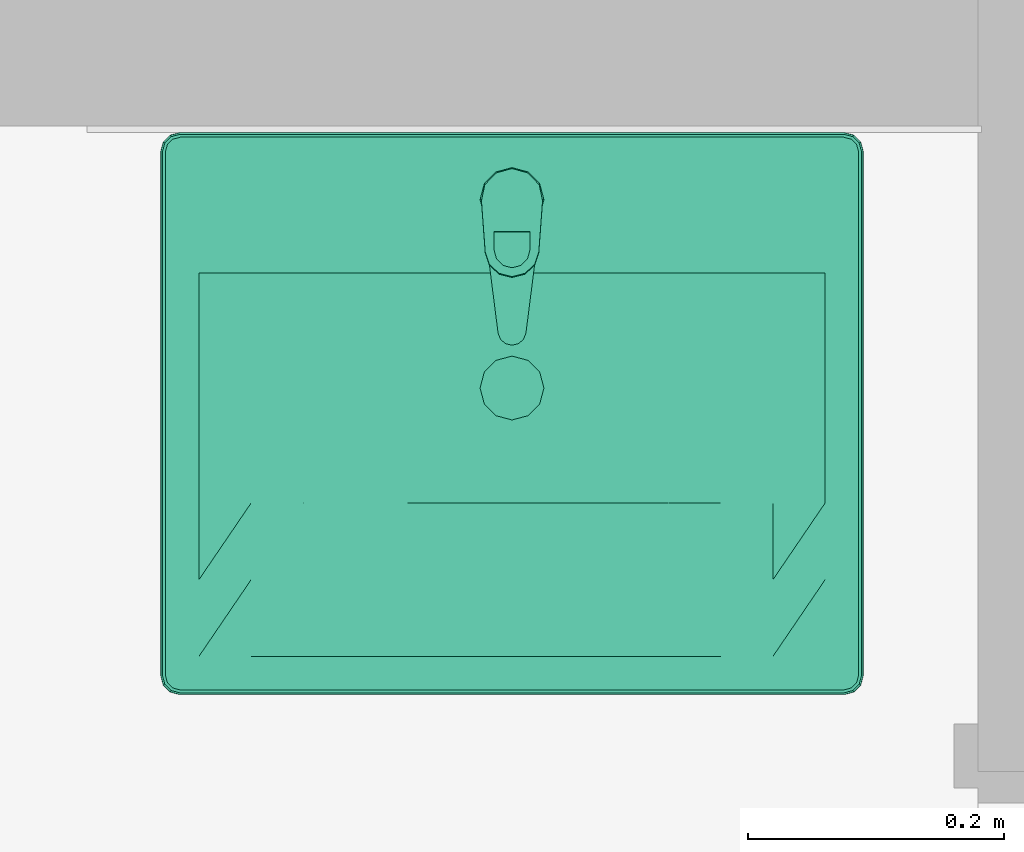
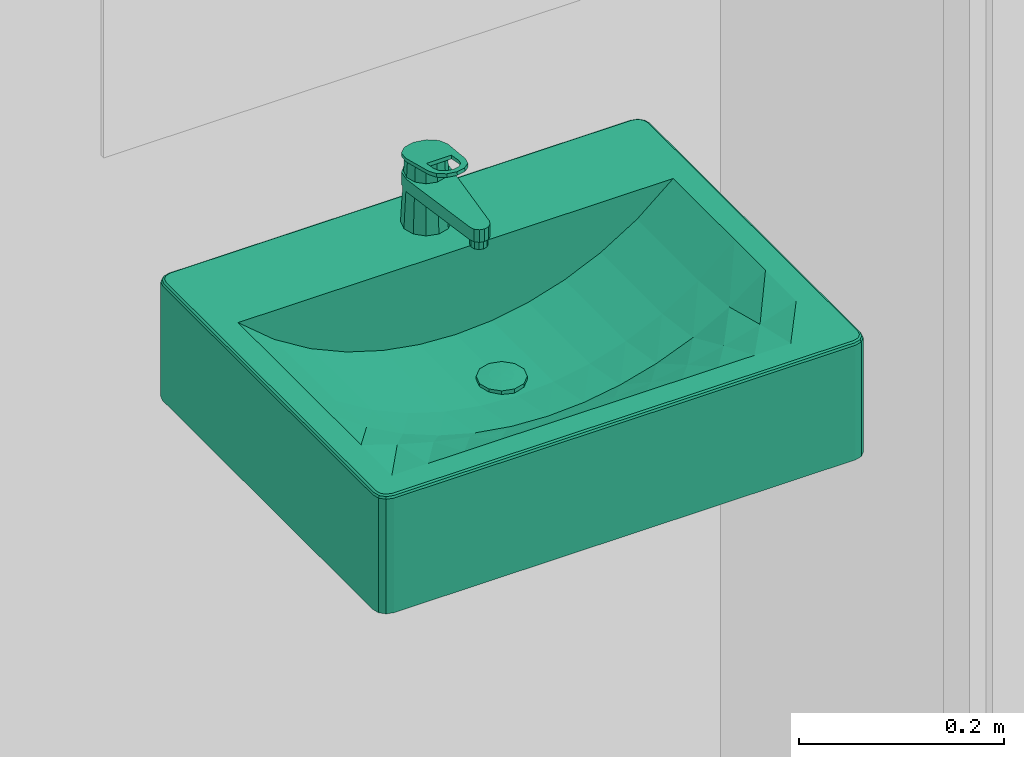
# One storey, part 117 of 194: 2 flow terminals.
"""IFC2X3 building model written with IfcOpenShell, lengths in millimetres."""

from ifc_helpers import new_model, entity, si_unit, converted_unit, derived_unit, money_unit, direction, frame, origin_with_axes, place, context, subcontext, project, spatial, open_shell, faceted_brep, surface_model, source, transform, mapped, type_object, element, save


model = new_model("IFC2X3")

# Units and contexts
model_context = context("Model", 3, precision=1e-05, world=origin_with_axes(), true_north=direction((0.0, 1.0)))
body_context = subcontext(model_context, "Body", "Model", "MODEL_VIEW")
ifc_project = project(units=[si_unit("LENGTHUNIT", "METRE", prefix="MILLI"), si_unit("AREAUNIT", "SQUARE_METRE"), si_unit("VOLUMEUNIT", "CUBIC_METRE"), converted_unit("PLANEANGLEUNIT", "DEGREE", entity("IfcPlaneAngleMeasure", 0.0174532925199), si_unit("PLANEANGLEUNIT", "RADIAN"), dimensions=[0, 0, 0, 0, 0, 0, 0]), si_unit("SOLIDANGLEUNIT", "STERADIAN"), money_unit("EUR"), converted_unit("TIMEUNIT", "Year", entity("IfcTimeMeasure", 31556926.0), si_unit("TIMEUNIT", "SECOND"), dimensions=[0, 0, 1, 0, 0, 0, 0]), si_unit("MASSUNIT", "GRAM", prefix="KILO"), si_unit("THERMODYNAMICTEMPERATUREUNIT", "DEGREE_CELSIUS"), si_unit("LUMINOUSINTENSITYUNIT", "LUMEN"), si_unit("ENERGYUNIT", "JOULE", prefix="MEGA"), derived_unit("THERMALCONDUCTANCEUNIT", [(si_unit("POWERUNIT", "WATT"), 1), (si_unit("LENGTHUNIT", "METRE"), -1), (si_unit("THERMODYNAMICTEMPERATUREUNIT", "KELVIN"), -1)]), derived_unit("SPECIFICHEATCAPACITYUNIT", [(si_unit("ENERGYUNIT", "JOULE"), 1), (si_unit("MASSUNIT", "GRAM", prefix="KILO"), -1), (si_unit("THERMODYNAMICTEMPERATUREUNIT", "KELVIN"), -1)]), derived_unit("MASSDENSITYUNIT", [(si_unit("MASSUNIT", "GRAM", prefix="KILO"), 1), (si_unit("VOLUMEUNIT", "CUBIC_METRE"), -1)])], contexts=[model_context])

# Site, building, storey
site_placement = place(None, origin_with_axes())
site = spatial("IfcSite", under=ifc_project, at=site_placement, Name="Site", CompositionType="ELEMENT")
building_placement = place(site_placement, origin_with_axes())
building = spatial("IfcBuilding", under=site, at=building_placement, Name="Building", CompositionType="ELEMENT")
storey_placement = place(building_placement, frame((0.0, 0.0, 3000.0), z_axis=(0.0, 0.0, 1.0), x_axis=(1.0, 0.0, 0.0)))
storey = spatial("IfcBuildingStorey", under=building, at=storey_placement, Name="2 KORRUS", CompositionType="ELEMENT", Elevation=3000.0)

# Flow terminals
sanitary_terminal_type_1 = type_object("IfcSanitaryTerminalType", Name="Basin 22", PredefinedType="NOTDEFINED")
shared_shape_1 = source(origin_with_axes(), body_context, "Body", "SurfaceModel", [
    faceted_brep([(260.0, -440.0, 860.0), (-260.0, -440.0, 860.0), (-267.5, -437.990381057, 860.0), (-272.990381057, -432.5, 860.0), (-275.0, -425.0, 860.0), (-275.0, -15.0, 860.0), (-272.990381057, -7.5, 860.0), (-267.5, -2.00961894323, 860.0), (-260.0, 0.0, 860.0), (260.0, 0.0, 860.0), (267.5, -2.00961894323, 860.0), (272.990381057, -7.5, 860.0), (275.0, -15.0, 860.0), (275.0, -425.0, 860.0), (272.990381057, -432.5, 860.0), (267.5, -437.990381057, 860.0), (-245.0, -410.0, 860.0), (245.0, -410.0, 860.0), (245.0, -110.0, 860.0), (-245.0, -110.0, 860.0), (259.999999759, -440.00000039, 995.0), (-259.999999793, -440.00000039, 995.0), (-267.500000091, -437.990381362, 995.0), (-272.990381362, -432.500000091, 995.0), (-275.00000039, -424.999999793, 995.0), (-275.00000039, -14.9999996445, 995.0), (-272.990381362, -7.50000027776, 995.0), (-267.500000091, -2.00961900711, 995.0), (-259.999999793, 2.02655670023e-08, 995.0), (259.999999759, 2.02655670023e-08, 995.0), (267.500000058, -2.00961900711, 995.0), (272.990381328, -7.50000027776, 995.0), (275.000000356, -14.9999996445, 995.0), (275.000000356, -424.999999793, 995.0), (272.990381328, -432.500000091, 995.0), (267.500000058, -437.990381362, 995.0), (-245.0, -410.0, 999.999999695), (245.0, -410.0, 999.999999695), (245.0, -110.0, 999.999999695), (-245.0, -110.0, 999.999999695), (259.977570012, -439.829629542, 996.294095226), (-259.977570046, -439.829629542, 996.294095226), (-267.411809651, -437.837631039, 996.294095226), (-272.837631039, -432.411809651, 996.294095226), (-274.829629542, -424.977570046, 996.294095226), (-274.829629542, -15.0224293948, 996.294095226), (-272.837631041, -7.58819072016, 996.294095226), (-267.411809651, -2.16236933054, 996.294095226), (-259.977570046, -0.170370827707, 996.294095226), (259.977570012, -0.170370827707, 996.294095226), (267.411809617, -2.16236933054, 996.294095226), (272.837631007, -7.58819072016, 996.294095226), (274.829629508, -15.0224293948, 996.294095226), (274.829629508, -424.977570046, 996.294095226), (272.837631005, -432.411809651, 996.294095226), (267.411809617, -437.837631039, 996.294095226), (-259.34173768, -4.99999712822, 999.999999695), (-264.911811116, -6.49249381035, 999.999999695), (-268.507506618, -10.0881893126, 999.999999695), (-270.000003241, -15.6582618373, 999.999999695), (-270.000003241, -424.34173768, 999.999999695), (-268.507506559, -429.911811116, 999.999999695), (-264.911811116, -433.507506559, 999.999999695), (-259.34173768, -435.000003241, 999.999999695), (259.341737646, -435.000003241, 999.999999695), (264.911811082, -433.507506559, 999.999999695), (268.507506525, -429.911811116, 999.999999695), (270.000003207, -424.34173768, 999.999999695), (270.000003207, -15.6582618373, 999.999999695), (268.507506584, -10.0881893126, 999.999999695), (264.911811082, -6.49249381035, 999.999999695), (259.341737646, -4.99999712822, 999.999999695), (259.807199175, -438.535534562, 998.535533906), (-259.807199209, -438.535534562, 998.535533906), (-266.741936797, -436.677377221, 998.535533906), (-271.677377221, -431.741936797, 998.535533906), (-273.535534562, -424.807199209, 998.535533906), (-273.535534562, -15.1928002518, 998.535533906), (-271.677377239, -8.2580635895, 998.535533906), (-266.741936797, -3.32262314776, 998.535533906), (-259.807199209, -1.46446580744, 998.535533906), (259.807199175, -1.46446580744, 998.535533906), (266.741936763, -3.32262314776, 998.535533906), (271.677377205, -8.2580635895, 998.535533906), (273.535534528, -15.1928002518, 998.535533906), (273.535534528, -424.807199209, 998.535533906), (271.677377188, -431.741936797, 998.535533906), (266.741936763, -436.677377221, 998.535533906), (-265.581682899, -5.33224184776, 999.829629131), (-259.512108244, -3.70590421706, 999.829629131), (-269.667758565, -9.41831751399, 999.829629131), (-271.294096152, -15.4878912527, 999.829629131), (-271.294096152, -424.512108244, 999.829629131), (-269.667758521, -430.581682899, 999.829629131), (-265.581682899, -434.667758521, 999.829629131), (-259.512108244, -436.294096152, 999.829629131), (259.51210821, -436.294096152, 999.829629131), (265.581682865, -434.667758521, 999.829629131), (269.667758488, -430.581682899, 999.829629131), (271.294096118, -424.512108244, 999.829629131), (271.294096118, -15.4878912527, 999.829629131), (269.667758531, -9.41831751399, 999.829629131), (265.581682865, -5.33224184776, 999.829629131), (259.51210821, -3.70590421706, 999.829629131)], [[[0, 1, 2, 3, 4, 5, 6, 7, 8, 9, 10, 11, 12, 13, 14, 15], [16, 17, 18, 19]], [[0, 20, 21, 1]], [[1, 21, 22, 2]], [[2, 22, 23, 3]], [[3, 23, 24, 4]], [[4, 24, 25, 5]], [[5, 25, 26, 6]], [[6, 26, 27, 7]], [[7, 27, 28, 8]], [[8, 28, 29, 9]], [[9, 29, 30, 10]], [[10, 30, 31, 11]], [[11, 31, 32, 12]], [[12, 32, 33, 13]], [[13, 33, 34, 14]], [[14, 34, 35, 15]], [[15, 35, 20, 0]], [[36, 37, 17, 16]], [[37, 38, 18, 17]], [[38, 39, 19, 18]], [[39, 36, 16, 19]], [[20, 40, 41, 21]], [[21, 41, 42, 22]], [[22, 42, 43, 23]], [[23, 43, 44, 24]], [[24, 44, 45, 25]], [[25, 45, 46, 26]], [[26, 46, 47, 27]], [[27, 47, 48, 28]], [[28, 48, 49, 29]], [[29, 49, 50, 30]], [[30, 50, 51, 31]], [[31, 51, 52, 32]], [[32, 52, 53, 33]], [[33, 53, 54, 34]], [[34, 54, 55, 35]], [[35, 55, 40, 20]], [[56, 57, 58, 59, 60, 61, 62, 63, 64, 65, 66, 67, 68, 69, 70, 71], [36, 39, 38, 37]], [[40, 72, 73, 41]], [[41, 73, 74, 42]], [[42, 74, 75, 43]], [[43, 75, 76, 44]], [[44, 76, 77, 45]], [[45, 77, 78, 46]], [[46, 78, 79, 47]], [[47, 79, 80, 48]], [[48, 80, 81, 49]], [[49, 81, 82, 50]], [[50, 82, 83, 51]], [[51, 83, 84, 52]], [[52, 84, 85, 53]], [[53, 85, 86, 54]], [[54, 86, 87, 55]], [[55, 87, 72, 40]], [[88, 57, 56, 89]], [[90, 58, 57, 88]], [[91, 59, 58, 90]], [[92, 60, 59, 91]], [[93, 61, 60, 92]], [[94, 62, 61, 93]], [[95, 63, 62, 94]], [[96, 64, 63, 95]], [[97, 65, 64, 96]], [[98, 66, 65, 97]], [[99, 67, 66, 98]], [[100, 68, 67, 99]], [[101, 69, 68, 100]], [[102, 70, 69, 101]], [[103, 71, 70, 102]], [[89, 56, 71, 103]], [[72, 96, 95, 73]], [[73, 95, 94, 74]], [[74, 94, 93, 75]], [[75, 93, 92, 76]], [[76, 92, 91, 77]], [[77, 91, 90, 78]], [[78, 90, 88, 79]], [[79, 88, 89, 80]], [[80, 89, 103, 81]], [[81, 103, 102, 82]], [[82, 102, 101, 83]], [[83, 101, 100, 84]], [[84, 100, 99, 85]], [[85, 99, 98, 86]], [[86, 98, 97, 87]], [[87, 97, 96, 72]]]),
    faceted_brep([(-245.0, -410.0, 860.0), (-245.0, -110.0, 860.0), (245.0, -110.0, 860.0), (245.0, -410.0, 860.0), (12.5, -221.641635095, 860.0), (21.6506350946, -212.491, 860.0), (25.0, -199.991, 860.0), (21.6506350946, -187.491, 860.0), (12.5, -178.340364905, 860.0), (0.0, -174.991, 860.0), (-12.5, -178.340364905, 860.0), (-21.6506350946, -187.491, 860.0), (-25.0, -199.991, 860.0), (-21.6506350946, -212.491, 860.0), (-12.5, -221.641635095, 860.0), (0.0, -224.991, 860.0), (-245.0, -290.0, 1000.0), (-245.0, -230.0, 1000.0), (-245.0, -170.0, 1000.0), (-245.0, -110.0, 1000.0), (-245.0, -410.0, 1000.0), (-245.0, -350.0, 1000.0), (122.5, -110.0, 922.129168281), (163.333333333, -110.0, 940.432026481), (204.166666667, -110.0, 965.689615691), (245.0, -110.0, 1000.0), (-204.166666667, -110.0, 965.689615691), (-163.333333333, -110.0, 940.432026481), (-122.5, -110.0, 922.129168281), (-81.6666666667, -110.0, 909.657569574), (-40.8333333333, -110.0, 902.389246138), (0.0, -110.0, 900.0), (40.8333333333, -110.0, 902.389246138), (81.6666666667, -110.0, 909.657569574), (245.0, -230.0, 1000.0), (245.0, -290.0, 1000.0), (245.0, -350.0, 1000.0), (245.0, -410.0, 1000.0), (245.0, -170.0, 1000.0), (-122.5, -410.0, 1000.0), (-163.333333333, -410.0, 1000.0), (-204.166666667, -410.0, 1000.0), (204.166666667, -410.0, 1000.0), (163.333333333, -410.0, 1000.0), (122.5, -410.0, 1000.0), (81.6666666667, -410.0, 1000.0), (40.8333333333, -410.0, 1000.0), (0.0, -410.0, 1000.0), (-40.8333333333, -410.0, 1000.0), (-81.6666666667, -410.0, 1000.0), (12.5, -221.641635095, 900.731401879), (21.6506350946, -212.491, 901.266825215), (25.0, -199.991, 901.462803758), (21.6506350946, -187.491, 901.266825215), (12.5, -178.340364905, 900.731401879), (0.0, -174.991, 900.0), (-12.5, -178.340364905, 900.731401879), (-21.6506350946, -187.491, 901.266825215), (-25.0, -199.991, 901.462803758), (-21.6506350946, -212.491, 901.266825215), (-12.5, -221.641635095, 900.731401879), (0.0, -224.991, 900.0), (-204.166666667, -230.0, 965.689615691), (-204.166666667, -170.0, 965.689615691), (-204.166666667, -350.0, 986.166287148), (-204.166666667, -290.0, 970.594758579), (163.333333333, -170.0, 940.432026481), (122.5, -170.0, 922.129168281), (204.166666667, -170.0, 965.689615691), (-163.333333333, -170.0, 940.432026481), (-122.5, -170.0, 922.129168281), (-81.6666666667, -170.0, 909.657569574), (-40.8333333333, -170.0, 902.389246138), (0.0, -170.0, 900.0), (40.8333333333, -170.0, 902.389246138), (81.6666666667, -170.0, 909.657569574), (204.166666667, -290.0, 970.594758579), (204.166666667, -350.0, 986.166287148), (204.166666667, -230.0, 965.689615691), (-122.5, -350.0, 966.539843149), (-163.333333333, -350.0, 975.056802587), (163.333333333, -350.0, 975.056802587), (122.5, -350.0, 966.539843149), (81.6666666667, -350.0, 960.520155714), (40.8333333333, -350.0, 956.933224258), (0.0, -350.0, 955.741663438), (-40.8333333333, -350.0, 956.933224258), (-81.6666666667, -350.0, 960.520155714), (0.0, -230.0, 900.0), (40.8333333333, -230.0, 902.389246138), (-40.8333333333, -230.0, 902.389246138), (-163.333333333, -230.0, 940.432026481), (163.333333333, -230.0, 940.432026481), (122.5, -230.0, 922.129168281), (-122.5, -230.0, 922.129168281), (-81.6666666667, -230.0, 909.657569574), (81.6666666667, -230.0, 909.657569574), (0.0, -290.0, 912.025576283), (-40.8333333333, -290.0, 914.19632473), (-163.333333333, -290.0, 948.375008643), (122.5, -290.0, 932.026603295), (163.333333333, -290.0, 948.375008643), (-122.5, -290.0, 932.026603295), (-81.6666666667, -290.0, 920.783680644), (40.8333333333, -290.0, 914.19632473), (81.6666666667, -290.0, 920.783680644)], [[[0, 1, 2, 3], [4, 5, 6, 7, 8, 9, 10, 11, 12, 13, 14, 15]], [[16, 17, 18, 19, 1, 0, 20, 21]], [[22, 23, 24, 25, 2, 1, 19, 26, 27, 28, 29, 30, 31, 32, 33]], [[34, 35, 36, 37, 3, 2, 25, 38]], [[39, 40, 41, 20, 0, 3, 37, 42, 43, 44, 45, 46, 47, 48, 49]], [[50, 51, 5, 4]], [[51, 52, 6, 5]], [[52, 53, 7, 6]], [[53, 54, 8, 7]], [[54, 55, 9, 8]], [[55, 56, 10, 9]], [[56, 57, 11, 10]], [[57, 58, 12, 11]], [[58, 59, 13, 12]], [[59, 60, 14, 13]], [[60, 61, 15, 14]], [[61, 50, 4, 15]], [[16, 62, 17]], [[62, 63, 18, 17]], [[63, 26, 19, 18]], [[20, 64, 21]], [[21, 65, 16]], [[66, 23, 22, 67]], [[68, 24, 23, 66]], [[38, 25, 24, 68]], [[69, 27, 26, 63]], [[70, 28, 27, 69]], [[71, 29, 28, 70]], [[72, 30, 29, 71]], [[73, 31, 30, 72]], [[74, 32, 31, 73]], [[75, 33, 32, 74]], [[67, 22, 33, 75]], [[76, 35, 34]], [[77, 36, 35]], [[42, 37, 36]], [[34, 38, 68, 78]], [[40, 39, 79]], [[41, 40, 80]], [[20, 41, 64]], [[43, 42, 77]], [[44, 43, 81]], [[45, 44, 82]], [[46, 45, 83]], [[47, 46, 84]], [[48, 47, 85]], [[49, 48, 86]], [[39, 49, 87]], [[54, 53, 52, 51, 50, 61, 88, 89, 74, 73, 55]], [[56, 55, 73, 72, 90, 88, 61, 60, 59, 58, 57]], [[16, 65, 62]], [[91, 69, 63, 62]], [[21, 64, 65]], [[92, 66, 67, 93]], [[78, 68, 66, 92]], [[94, 70, 69, 91]], [[95, 71, 70, 94]], [[90, 72, 71, 95]], [[96, 75, 74, 89]], [[93, 67, 75, 96]], [[77, 35, 76]], [[76, 34, 78]], [[42, 36, 77]], [[39, 87, 79]], [[40, 79, 80]], [[41, 80, 64]], [[43, 77, 81]], [[44, 81, 82]], [[45, 82, 83]], [[46, 83, 84]], [[47, 84, 85]], [[48, 85, 86]], [[49, 86, 87]], [[97, 89, 88]], [[98, 88, 90]], [[65, 91, 62]], [[64, 99, 65]], [[100, 92, 93]], [[101, 78, 92]], [[99, 94, 91]], [[102, 95, 94]], [[103, 90, 95]], [[104, 96, 89]], [[105, 93, 96]], [[81, 77, 76]], [[101, 76, 78]], [[79, 87, 103]], [[80, 79, 102]], [[64, 80, 99]], [[82, 81, 101]], [[83, 82, 100]], [[84, 83, 105]], [[85, 84, 104]], [[86, 85, 97]], [[87, 86, 98]], [[97, 104, 89]], [[98, 97, 88]], [[103, 98, 90]], [[65, 99, 91]], [[100, 101, 92]], [[105, 100, 93]], [[99, 102, 94]], [[102, 103, 95]], [[104, 105, 96]], [[81, 76, 101]], [[87, 98, 103]], [[79, 103, 102]], [[80, 102, 99]], [[82, 101, 100]], [[83, 100, 105]], [[84, 105, 104]], [[85, 104, 97]], [[86, 97, 98]]]),
    faceted_brep([(21.6506350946, -212.491, 900.0), (12.5, -221.641635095, 900.0), (0.0, -224.991, 900.0), (-12.5, -221.641635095, 900.0), (-21.6506350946, -212.491, 900.0), (-25.0, -199.991, 900.0), (-21.6506350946, -187.491, 900.0), (-12.5, -178.340364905, 900.0), (0.0, -174.991, 900.0), (12.5, -178.340364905, 900.0), (21.6506350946, -187.491, 900.0), (25.0, -199.991, 900.0), (21.6506350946, -212.491, 905.0), (12.5, -221.641635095, 905.0), (0.0, -224.991, 905.0), (-12.5, -221.641635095, 905.0), (-21.6506350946, -212.491, 905.0), (-25.0, -199.991, 905.0), (-21.6506350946, -187.491, 905.0), (-12.5, -178.340364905, 905.0), (0.0, -174.991, 905.0), (12.5, -178.340364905, 905.0), (21.6506350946, -187.491, 905.0), (25.0, -199.991, 905.0)], [[[0, 1, 2, 3, 4, 5, 6, 7, 8, 9, 10, 11]], [[1, 0, 12, 13]], [[2, 1, 13, 14]], [[3, 2, 14, 15]], [[4, 3, 15, 16]], [[5, 4, 16, 17]], [[6, 5, 17, 18]], [[7, 6, 18, 19]], [[8, 7, 19, 20]], [[9, 8, 20, 21]], [[10, 9, 21, 22]], [[11, 10, 22, 23]], [[0, 11, 23, 12]], [[12, 23, 22, 21, 20, 19, 18, 17, 16, 15, 14, 13]]]),
    surface_model("IfcShellBasedSurfaceModel", [(0.0, -199.991, 907.0), (0.0, -187.369094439, 906.49757372), (-6.31095278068, -189.06010914, 906.49757372), (6.31095278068, -189.06010914, 906.49757372), (0.0, -174.991, 905.0), (-12.5, -178.340364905, 905.0), (-10.9308908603, -193.680047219, 906.49757372), (10.9308908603, -193.680047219, 906.49757372), (12.5, -178.340364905, 905.0), (-21.6506350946, -187.491, 905.0), (-12.6219055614, -199.991, 906.49757372), (12.6219055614, -199.991, 906.49757372), (21.6506350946, -187.491, 905.0), (-25.0, -199.991, 905.0), (-10.9308908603, -206.301952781, 906.49757372), (10.9308908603, -206.301952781, 906.49757372), (25.0, -199.991, 905.0), (-21.6506350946, -212.491, 905.0), (-6.31095278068, -210.92189086, 906.49757372), (6.31095278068, -210.92189086, 906.49757372), (21.6506350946, -212.491, 905.0), (-12.5, -221.641635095, 905.0), (0.0, -212.612905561, 906.49757372), (12.5, -221.641635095, 905.0), (0.0, -224.991, 905.0)], [open_shell([[[0, 1, 2]], [[0, 3, 1]], [[2, 1, 4, 5]], [[0, 2, 6]], [[0, 7, 3]], [[1, 3, 8, 4]], [[6, 2, 5, 9]], [[0, 6, 10]], [[0, 11, 7]], [[3, 7, 12, 8]], [[10, 6, 9, 13]], [[0, 10, 14]], [[0, 15, 11]], [[7, 11, 16, 12]], [[14, 10, 13, 17]], [[0, 14, 18]], [[0, 19, 15]], [[11, 15, 20, 16]], [[18, 14, 17, 21]], [[0, 18, 22]], [[0, 22, 19]], [[15, 19, 23, 20]], [[22, 18, 21, 24]], [[19, 22, 24, 23]]])]),
])
flow_terminal_1_placement = place(storey_placement, frame((33352.6790626, 11179.2182637, 40.0), z_axis=(0.0, 0.0, 1.0), x_axis=(1.0, 0.0, 0.0)))
element("IfcFlowTerminal", 1, at=flow_terminal_1_placement, inside=storey, type_object=sanitary_terminal_type_1, Name="Valamu", context=body_context, shape_type="MappedRepresentation", body=[
    mapped(shared_shape_1, transform((0.0, 0.0, 0.0))),
])
sanitary_terminal_type_2 = type_object("IfcSanitaryTerminalType", Name="Tap 22", PredefinedType="NOTDEFINED")
shared_shape_2 = source(origin_with_axes(), body_context, "Body", "Brep", [
    faceted_brep([(12.5, 21.6506350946, 1000.0), (0.0, 25.0, 1000.0), (0.0, 21.2019230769, 1075.96153846), (10.5873227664, 18.3377809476, 1076.50708934), (21.6506350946, 12.5, 1000.0), (25.0, 0.0, 1000.0), (21.6506350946, -12.5, 1000.0), (12.5, -21.6506350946, 1000.0), (0.0, -25.0, 1000.0), (-12.5, -21.6506350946, 1000.0), (-21.6506350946, -12.5, 1000.0), (-25.0, 0.0, 1000.0), (-21.6506350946, 12.5, 1000.0), (-12.5, 21.6506350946, 1000.0), (-10.5873227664, 18.3377809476, 1076.50708934), (-18.2735503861, 10.5502392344, 1077.99043062), (-21.0, 0.0, 1080.0), (-18.1003413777, -10.4502369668, 1081.99052133), (-10.4141059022, -18.037760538, 1083.43576391), (0.0, -20.8018867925, 1083.96226415), (10.4141059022, -18.037760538, 1083.43576391), (18.1003413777, -10.4502369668, 1081.99052133), (21.0, 0.0, 1080.0), (18.2735503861, 10.5502392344, 1077.99043062)], [[[0, 1, 2, 3]], [[0, 4, 5, 6, 7, 8, 9, 10, 11, 12, 13, 1]], [[1, 13, 14, 2]], [[3, 2, 14, 15, 16, 17, 18, 19, 20, 21, 22, 23]], [[4, 0, 3, 23]], [[5, 4, 23, 22]], [[6, 5, 22, 21]], [[7, 6, 21, 20]], [[8, 7, 20, 19]], [[9, 8, 19, 18]], [[10, 9, 18, 17]], [[11, 10, 17, 16]], [[12, 11, 16, 15]], [[13, 12, 15, 14]]]),
    faceted_brep([(9.0, -103.0, 1035.0), (7.79422863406, -98.5, 1035.0), (7.79422863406, -98.5, 1045.0), (9.0, -103.0, 1045.0), (7.79422863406, -107.5, 1035.0), (4.5, -110.794228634, 1035.0), (0.0, -112.0, 1035.0), (-4.5, -110.794228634, 1035.0), (-7.79422863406, -107.5, 1035.0), (-9.0, -103.0, 1035.0), (-7.79422863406, -98.5, 1035.0), (-4.5, -95.2057713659, 1035.0), (0.0, -94.0, 1035.0), (4.5, -95.2057713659, 1035.0), (4.5, -95.2057713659, 1045.0), (0.0, -94.0, 1045.0), (-4.5, -95.2057713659, 1045.0), (-7.79422863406, -98.5, 1045.0), (-9.0, -103.0, 1045.0), (-7.79422863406, -107.5, 1045.0), (-4.5, -110.794228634, 1045.0), (0.0, -112.0, 1045.0), (4.5, -110.794228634, 1045.0), (7.79422863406, -107.5, 1045.0)], [[[0, 1, 2, 3]], [[0, 4, 5, 6, 7, 8, 9, 10, 11, 12, 13, 1]], [[1, 13, 14, 2]], [[3, 2, 14, 15, 16, 17, 18, 19, 20, 21, 22, 23]], [[4, 0, 3, 23]], [[5, 4, 23, 22]], [[6, 5, 22, 21]], [[7, 6, 21, 20]], [[8, 7, 20, 19]], [[9, 8, 19, 18]], [[10, 9, 18, 17]], [[11, 10, 17, 16]], [[12, 11, 16, 15]], [[13, 12, 15, 14]]]),
    faceted_brep([(-12.8717176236, 20.2563038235, 1060.0), (-21.727805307, 10.1932053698, 1060.0), (-23.8054, -3.0499, 1060.0), (-10.911990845, -104.388371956, 1060.0), (-9.02887546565, -109.283194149, 1060.0), (-5.09332449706, -112.749726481, 1060.0), (3.62679860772e-05, -113.99996004, 1060.0), (5.09338878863, -112.749692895, 1060.0), (9.02891689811, -109.283134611, 1060.0), (10.912, -104.3883, 1060.0), (23.8053997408, -3.04990202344, 1060.0), (21.7278061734, 10.193203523, 1060.0), (12.8717193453, 20.2563027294, 1060.0), (1.01998896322e-06, 23.999978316, 1060.0), (11.0, 19.0525588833, 1060.0), (19.0525588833, 11.0, 1060.0), (22.0, 0.0, 1060.0), (19.0525588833, -11.0, 1060.0), (11.0, -19.0525588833, 1060.0), (0.0, -22.0, 1060.0), (-11.0, -19.0525588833, 1060.0), (-19.0525588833, -11.0, 1060.0), (-22.0, 0.0, 1060.0), (-19.0525588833, 11.0, 1060.0), (-11.0, 19.0525588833, 1060.0), (0.0, 22.0, 1060.0), (-21.727805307, 10.1932053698, 1045.0), (-12.8717176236, 20.2563038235, 1045.0), (-23.8054, -3.0499, 1045.0), (-10.911990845, -104.388371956, 1045.0), (-9.02887546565, -109.283194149, 1045.0), (-5.09332449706, -112.749726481, 1045.0), (3.62679860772e-05, -113.99996004, 1045.0), (5.09338878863, -112.749692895, 1045.0), (9.02891689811, -109.283134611, 1045.0), (10.912, -104.3883, 1045.0), (23.8053997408, -3.04990202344, 1045.0), (21.7278061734, 10.193203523, 1045.0), (12.8717193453, 20.2563027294, 1045.0), (1.01998896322e-06, 23.999978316, 1045.0), (11.375, 19.7020779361, 1045.0), (19.7020779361, 11.375, 1045.0), (22.75, 0.0, 1045.0), (19.7020779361, -11.375, 1045.0), (11.375, -19.7020779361, 1045.0), (0.0, -22.75, 1045.0), (-11.375, -19.7020779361, 1045.0), (-19.7020779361, -11.375, 1045.0), (-22.75, 0.0, 1045.0), (-19.7020779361, 11.375, 1045.0), (-11.375, 19.7020779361, 1045.0), (0.0, 22.75, 1045.0)], [[[0, 1, 2, 3, 4, 5, 6, 7, 8, 9, 10, 11, 12, 13], [14, 15, 16, 17, 18, 19, 20, 21, 22, 23, 24, 25]], [[26, 1, 0, 27]], [[28, 2, 1, 26]], [[29, 3, 2, 28]], [[30, 4, 3, 29]], [[31, 5, 4, 30]], [[32, 6, 5, 31]], [[33, 7, 6, 32]], [[34, 8, 7, 33]], [[35, 9, 8, 34]], [[36, 10, 9, 35]], [[37, 11, 10, 36]], [[38, 12, 11, 37]], [[39, 13, 12, 38]], [[27, 0, 13, 39]], [[40, 41, 15, 14]], [[41, 42, 16, 15]], [[42, 43, 17, 16]], [[43, 44, 18, 17]], [[44, 45, 19, 18]], [[20, 19, 45, 46]], [[21, 20, 46, 47]], [[22, 21, 47, 48]], [[23, 22, 48, 49]], [[24, 23, 49, 50]], [[50, 51, 25, 24]], [[51, 40, 14, 25]], [[32, 31, 30, 29, 28, 26, 27, 39, 38, 37, 36, 35, 34, 33], [44, 43, 42, 41, 40, 51, 50, 49, 48, 47, 46, 45]]]),
    faceted_brep([(23.893, -1.69256934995, 1080.32239416), (21.2964214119, 10.774718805, 1077.94767261), (21.2964214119, 11.5231672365, 1081.87702687), (23.893, -0.944120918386, 1084.25174843), (20.9459364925, -41.8367022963, 1087.96889568), (17.6631391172, -51.5143665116, 1089.81226029), (10.0614352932, -58.4637460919, 1091.13595164), (-0.000442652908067, -60.9856119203, 1091.61630703), (-10.0622123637, -58.4633294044, 1091.13587227), (-17.6636179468, -51.5136350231, 1089.81212096), (-20.946, -41.8358348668, 1087.96873045), (-23.893020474, -1.69229042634, 1080.32234103), (-21.2962910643, 10.7749674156, 1077.94762525), (-12.4716815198, 20.0911974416, 1076.17310525), (0.000142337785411, 23.5319645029, 1075.51772105), (12.4719245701, 20.0910518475, 1076.17313298), (14.0, -25.540802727, 1084.86491481), (-14.0, -25.540802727, 1084.86491481), (-14.0, -40.3564329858, 1087.68693962), (-12.124355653, -47.2328029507, 1088.99672437), (-7.0, -52.2666551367, 1089.95555336), (0.0, -54.1091729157, 1090.30650913), (7.0, -52.2666551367, 1089.95555336), (12.124355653, -47.2328029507, 1088.99672437), (14.0, -40.3564329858, 1087.68693962), (12.4719245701, 20.8395002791, 1080.10248725), (0.000142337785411, 24.2804129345, 1079.44707531), (-12.4716815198, 20.8396458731, 1080.10245951), (-21.2962910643, 11.5234158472, 1081.87697952), (-23.893020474, -0.943841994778, 1084.2516953), (-20.946, -41.0873864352, 1091.89808472), (-17.6636179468, -50.7651865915, 1093.74147522), (-10.0622123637, -57.7148809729, 1095.06522653), (-0.000442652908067, -60.2371634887, 1095.5456613), (10.0614352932, -57.7152976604, 1095.0653059), (17.6631391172, -50.7659180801, 1093.74161455), (20.9459364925, -41.0882538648, 1091.89824994), (14.0, -24.7923542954, 1088.79426907), (14.0, -39.6079845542, 1091.61629388), (12.124355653, -46.4843545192, 1092.92607864), (7.0, -51.5182067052, 1093.88490763), (0.0, -53.3607244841, 1094.23586339), (-7.0, -51.5182067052, 1093.88490763), (-12.124355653, -46.4843545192, 1092.92607864), (-14.0, -39.6079845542, 1091.61629388), (-14.0, -24.7923542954, 1088.79426907)], [[[0, 1, 2, 3]], [[0, 4, 5, 6, 7, 8, 9, 10, 11, 12, 13, 14, 15, 1], [16, 17, 18, 19, 20, 21, 22, 23, 24]], [[1, 15, 25, 2]], [[3, 2, 25, 26, 27, 28, 29, 30, 31, 32, 33, 34, 35, 36], [37, 38, 39, 40, 41, 42, 43, 44, 45]], [[4, 0, 3, 36]], [[5, 4, 36, 35]], [[6, 5, 35, 34]], [[7, 6, 34, 33]], [[8, 7, 33, 32]], [[9, 8, 32, 31]], [[10, 9, 31, 30]], [[11, 10, 30, 29]], [[12, 11, 29, 28]], [[13, 12, 28, 27]], [[14, 13, 27, 26]], [[15, 14, 26, 25]], [[17, 16, 37, 45]], [[18, 17, 45, 44]], [[19, 18, 44, 43]], [[20, 19, 43, 42]], [[21, 20, 42, 41]], [[22, 21, 41, 40]], [[23, 22, 40, 39]], [[24, 23, 39, 38]], [[16, 24, 38, 37]]]),
])
flow_terminal_2_placement = place(storey_placement, frame((33352.6790626, 11126.6848698, 40.0), z_axis=(0.0, 0.0, 1.0), x_axis=(1.0, 0.0, 0.0)))
element("IfcFlowTerminal", 2, at=flow_terminal_2_placement, inside=storey, type_object=sanitary_terminal_type_2, Name="Valamu", context=body_context, shape_type="MappedRepresentation", body=[
    mapped(shared_shape_2, transform((0.0, 0.0, 0.0))),
])

save(model, "model.ifc")
